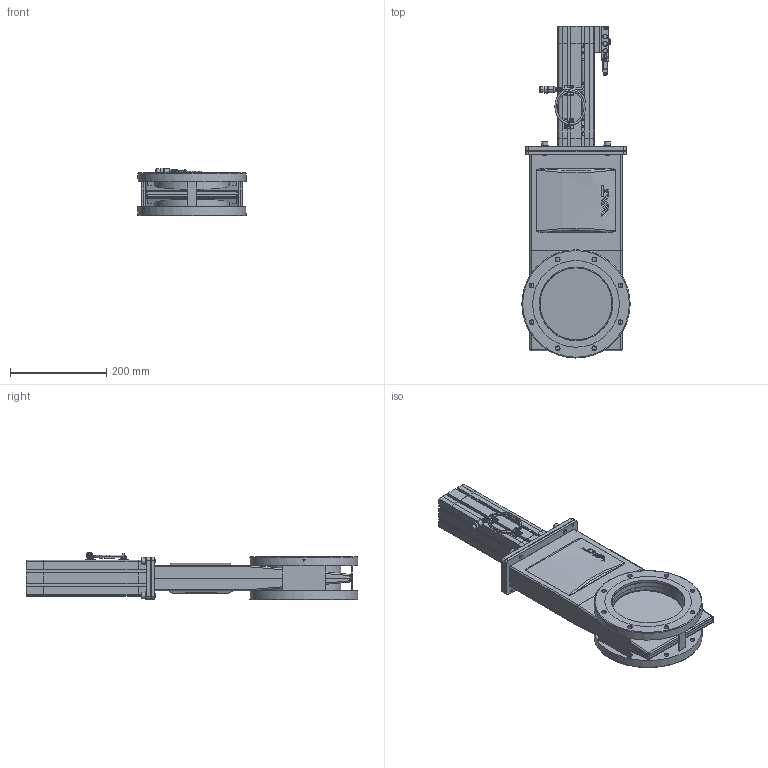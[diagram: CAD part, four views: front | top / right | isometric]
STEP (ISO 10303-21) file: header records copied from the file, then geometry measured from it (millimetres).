
FILE_DESCRIPTION(/* description */ (''),/* implementation_level */ '2;1');
FILE_NAME(/* name */ '1005810421_203.stp',/* time_stamp */ '2022-05-27T07:33:04+02:00',/* author */ (''),/* organization */ (''),/* preprocessor_version */ 'ST-DEVELOPER v18.1',/* originating_system */ 'SIEMENS PLM Software NX 1973',/* authorisation */ '');
FILE_SCHEMA (('AP203_CONFIGURATION_CONTROLLED_3D_DESIGN_OF_MECHANICAL_PARTS_AND_ASSEMBLIES_MIM_LF { 1 0 10303 403 2 1 2}'));
Length unit declared in the file: millimetre
Products named in the file (27): 255736.1_34917ID; 255802.2_34850ID; 255802.2_34851ID; 408099; 998888; 487660; 411636_34924ID; 1041281; 590481; 938048; 1033769; 255781.4_34905ID; 255792.2; 255781.4_34872ID; 313588.1; 255788.2_34863ID; 255788.2_34893ID; 1085547; 984070; 228777; n-6134-409.1; 255558.4; 1081830_NX-ARRAGMNTDN160, Standard v3 ; 1033770_NX-ARRAGMNTclose; 255803.6_NX-ARRAGMNTGrundgehäuse_kpl_geschweisst-unbearbeitet; 313594.3; 1034102
Assembly tree (37 placements, depth 4):
  1034102
    255558.4
    n-6134-409.1  x4
    228777  x4
    313594.3
      255788.2_34893ID
      255788.2_34863ID
      313588.1  x2
      255781.4_34872ID
      255792.2
      255803.6_NX-ARRAGMNTGrundgehäuse_kpl_geschweisst-unbearbeitet
        255802.2_34851ID
        255802.2_34850ID
        255736.1_34917ID
      255781.4_34905ID
    1033770_NX-ARRAGMNTclose
      1033769
      938048
      590481
      1041281
    1081830_NX-ARRAGMNTDN160, Standard v3 
      411636_34924ID
      487660  x2
      998888
      408099  x2
    984070  x2
    1085547  x2
Bounding box: 224.8 x 690.5 x 99.3 mm (x, y, z)
Volume: 3388374.9 mm3; surface area: 837611.5 mm2
Topology: 45 solids, 47 shells, 5616 faces, 14230 edges, 8697 vertices
Faces by surface type: plane 2309, cylinder 1790, bspline 676, cone 326, torus 275, sphere 179, extrusion 49, revolution 12
Full cylindrical faces by diameter (mm): 1.041 x3, 1.5 x1, 2 x2, 2.5 x1, 2.9 x2, 3 x2, 3.2 x4, 3.4 x4, 3.75 x1, 3.8 x1, 3.9 x1, 4 x4, 4.5 x6, 5.05 x1, 5.1 x2, 5.22 x4, 5.5 x2, 5.6 x1, 5.8 x1, 6.2 x3, 6.4 x1, 6.54 x1, 6.6 x4, 6.66 x4, 6.7 x4, 6.8 x5, 6.9 x1, 7.4 x2, 8 x10, 8.1 x1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
Entity records: 185031 total; most frequent: CARTESIAN_POINT 64120, ORIENTED_EDGE 24736, DIRECTION 23142, EDGE_CURVE 12368, AXIS2_PLACEMENT_3D 8430, VERTEX_POINT 7823, VECTOR 6274, LINE 6225
